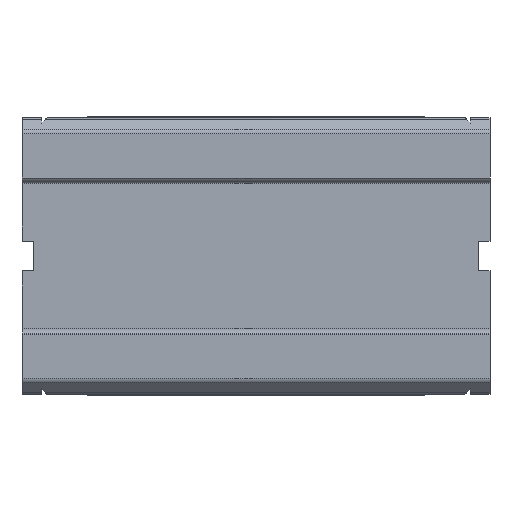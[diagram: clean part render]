
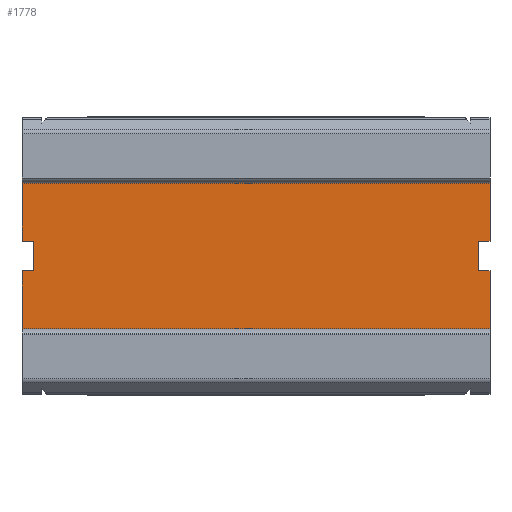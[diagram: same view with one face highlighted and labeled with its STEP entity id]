
A CAD part, front view. The second image highlights one B-rep face of the part: STEP entity #1778.
In plain terms, the highlighted planar face has unit normal (0, -1, 0).
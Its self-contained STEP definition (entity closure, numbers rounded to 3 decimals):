
#547=ORIENTED_EDGE('',*,*,#700,.T.);
#548=ORIENTED_EDGE('',*,*,#696,.F.);
#549=ORIENTED_EDGE('',*,*,#647,.F.);
#550=ORIENTED_EDGE('',*,*,#845,.F.);
#551=ORIENTED_EDGE('',*,*,#688,.T.);
#552=ORIENTED_EDGE('',*,*,#711,.T.);
#553=ORIENTED_EDGE('',*,*,#706,.F.);
#554=ORIENTED_EDGE('',*,*,#713,.T.);
#555=ORIENTED_EDGE('',*,*,#669,.T.);
#556=ORIENTED_EDGE('',*,*,#846,.T.);
#557=ORIENTED_EDGE('',*,*,#635,.F.);
#558=ORIENTED_EDGE('',*,*,#694,.F.);
#635=EDGE_CURVE('',#879,#880,#1048,.T.);
#647=EDGE_CURVE('',#891,#892,#1054,.T.);
#669=EDGE_CURVE('',#911,#910,#1070,.T.);
#688=EDGE_CURVE('',#929,#928,#1082,.T.);
#694=EDGE_CURVE('',#934,#879,#1085,.T.);
#696=EDGE_CURVE('',#892,#935,#1087,.F.);
#700=EDGE_CURVE('',#934,#935,#1089,.T.);
#706=EDGE_CURVE('',#942,#943,#1093,.T.);
#711=EDGE_CURVE('',#928,#943,#1097,.F.);
#713=EDGE_CURVE('',#942,#911,#1099,.T.);
#845=EDGE_CURVE('',#929,#891,#1207,.T.);
#846=EDGE_CURVE('',#910,#880,#1208,.T.);
#879=VERTEX_POINT('',#2514);
#880=VERTEX_POINT('',#2516);
#891=VERTEX_POINT('',#2539);
#892=VERTEX_POINT('',#2541);
#910=VERTEX_POINT('',#2583);
#911=VERTEX_POINT('',#2585);
#928=VERTEX_POINT('',#2621);
#929=VERTEX_POINT('',#2623);
#934=VERTEX_POINT('',#2634);
#935=VERTEX_POINT('',#2639);
#942=VERTEX_POINT('',#2657);
#943=VERTEX_POINT('',#2659);
#1048=LINE('',#2515,#1236);
#1054=LINE('',#2540,#1242);
#1070=LINE('',#2584,#1258);
#1082=LINE('',#2622,#1270);
#1085=LINE('',#2635,#1273);
#1087=LINE('',#2638,#1275);
#1089=LINE('',#2646,#1277);
#1093=LINE('',#2658,#1281);
#1097=LINE('',#2668,#1285);
#1099=LINE('',#2671,#1287);
#1207=LINE('',#2952,#1395);
#1208=LINE('',#2953,#1396);
#1236=VECTOR('',#2003,1000.);
#1242=VECTOR('',#2023,1000.);
#1258=VECTOR('',#2057,1000.);
#1270=VECTOR('',#2085,1000.);
#1273=VECTOR('',#2096,1000.);
#1275=VECTOR('',#2100,1000.);
#1277=VECTOR('',#2108,1000.);
#1281=VECTOR('',#2118,1000.);
#1285=VECTOR('',#2126,1000.);
#1287=VECTOR('',#2130,1000.);
#1395=VECTOR('',#2420,1000.);
#1396=VECTOR('',#2421,1000.);
#1503=EDGE_LOOP('',(#547,#548,#549,#550,#551,#552,#553,#554,#555,#556,#557,
#558));
#1619=FACE_BOUND('',#1503,.T.);
#1689=PLANE('',#1945);
#1778=ADVANCED_FACE('',(#1619),#1689,.T.);
#1945=AXIS2_PLACEMENT_3D('',#2951,#2418,#2419);
#2003=DIRECTION('',(0.,0.,1.));
#2023=DIRECTION('',(0.,0.,1.));
#2057=DIRECTION('',(0.,0.,1.));
#2085=DIRECTION('',(0.,0.,1.));
#2096=DIRECTION('',(-1.,0.,0.));
#2100=DIRECTION('',(-1.,0.,0.));
#2108=DIRECTION('',(0.,0.,-1.));
#2118=DIRECTION('',(0.,0.,-1.));
#2126=DIRECTION('',(1.,0.,0.));
#2130=DIRECTION('',(1.,0.,0.));
#2418=DIRECTION('',(0.,-1.,0.));
#2419=DIRECTION('',(0.,0.,-1.));
#2420=DIRECTION('',(-1.,0.,0.));
#2421=DIRECTION('',(-1.,0.,0.));
#2514=CARTESIAN_POINT('',(-21.,3.4,1.327));
#2515=CARTESIAN_POINT('',(-21.,3.4,-6.7));
#2516=CARTESIAN_POINT('',(-21.,3.4,6.7));
#2539=CARTESIAN_POINT('',(-21.,3.4,-6.7));
#2540=CARTESIAN_POINT('',(-21.,3.4,-6.7));
#2541=CARTESIAN_POINT('',(-21.,3.4,-1.327));
#2583=CARTESIAN_POINT('',(21.,3.4,6.7));
#2584=CARTESIAN_POINT('',(21.,3.4,-6.7));
#2585=CARTESIAN_POINT('',(21.,3.4,1.327));
#2621=CARTESIAN_POINT('',(21.,3.4,-1.327));
#2622=CARTESIAN_POINT('',(21.,3.4,-6.7));
#2623=CARTESIAN_POINT('',(21.,3.4,-6.7));
#2634=CARTESIAN_POINT('',(-20.,3.4,1.327));
#2635=CARTESIAN_POINT('',(-20.,3.4,1.327));
#2638=CARTESIAN_POINT('',(-20.,3.4,-1.327));
#2639=CARTESIAN_POINT('',(-20.,3.4,-1.327));
#2646=CARTESIAN_POINT('',(-20.,3.4,0.));
#2657=CARTESIAN_POINT('',(20.,3.4,1.327));
#2658=CARTESIAN_POINT('',(20.,3.4,0.));
#2659=CARTESIAN_POINT('',(20.,3.4,-1.327));
#2668=CARTESIAN_POINT('',(20.,3.4,-1.327));
#2671=CARTESIAN_POINT('',(20.,3.4,1.327));
#2951=CARTESIAN_POINT('',(21.,3.4,-6.7));
#2952=CARTESIAN_POINT('',(21.,3.4,-6.7));
#2953=CARTESIAN_POINT('',(21.,3.4,6.7));
